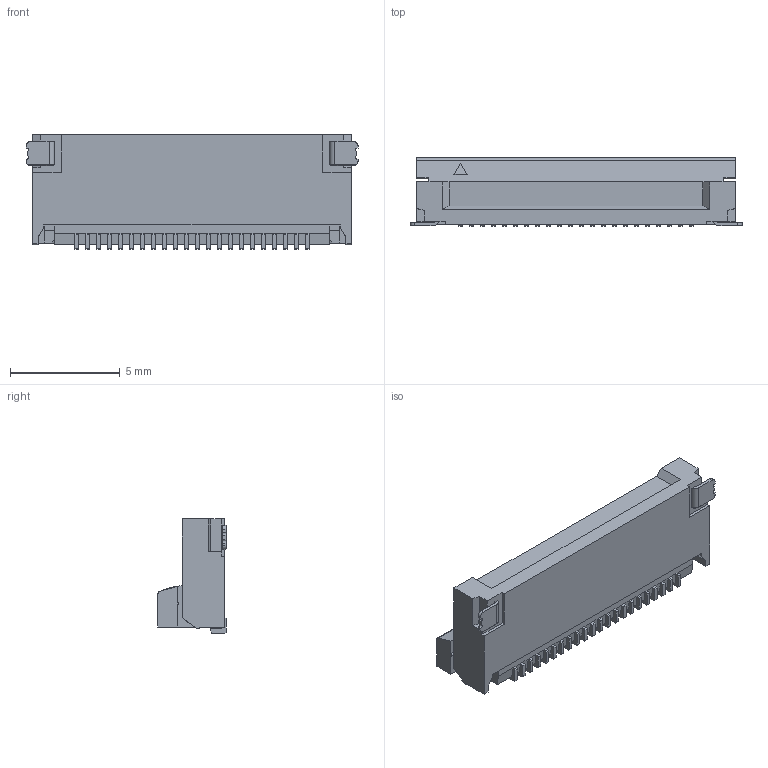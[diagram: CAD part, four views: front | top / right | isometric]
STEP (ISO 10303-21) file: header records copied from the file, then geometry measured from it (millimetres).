
FILE_DESCRIPTION (( 'STEP AP203' ), '1' );
FILE_NAME ('20477-022E-xxC ASS''Y ACT-OPEN STEP R0 ALL.STEP', '2013-05-10T06:52:14', ( 'kaihatsu-3dcad-3' ), ( '' ), 'SwSTEP 2.0', 'SolidWorks 2011', '' );
FILE_SCHEMA (( 'CONFIG_CONTROL_DESIGN' ));
Length unit declared in the file: millimetre
Products named in the file (1): 20477-022E-xxC ASS''Y ACT-OPEN STEP R0 ALL
Bounding box: 15.1 x 3.1 x 5.2 mm (x, y, z)
Volume: 144.3 mm3; surface area: 292.2 mm2
Topology: 1 solids, 1 shells, 398 faces, 1129 edges, 736 vertices
Faces by surface type: plane 355, cylinder 39, cone 4
Entity records: 12745 total; most frequent: CARTESIAN_POINT 2297, ORIENTED_EDGE 2258, DIRECTION 2001, EDGE_CURVE 1129, VECTOR 1039, LINE 1039, VERTEX_POINT 736, AXIS2_PLACEMENT_3D 481
